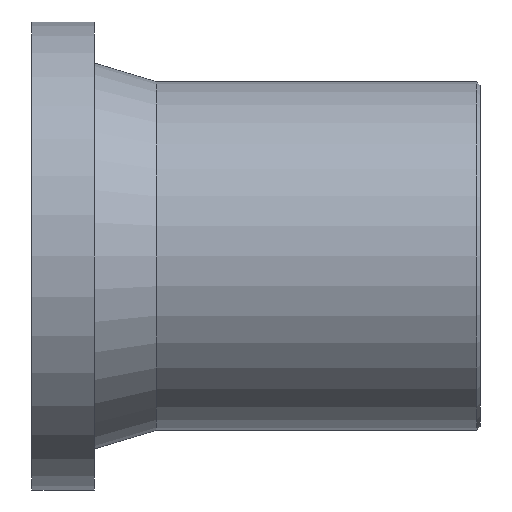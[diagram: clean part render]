
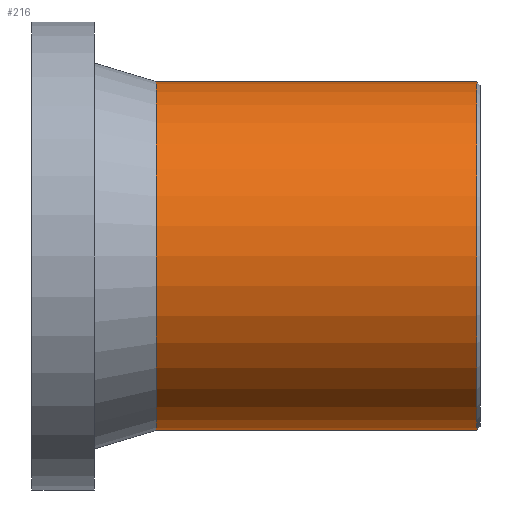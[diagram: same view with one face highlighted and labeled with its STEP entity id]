
A CAD part, front view. The second image highlights one B-rep face of the part: STEP entity #216.
In plain terms, the highlighted cylindrical face has radius 70 mm (diameter 140 mm), a full revolution.
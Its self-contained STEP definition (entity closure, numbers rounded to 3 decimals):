
#24=CYLINDRICAL_SURFACE('',#240,70.);
#34=FACE_BOUND('',#76,.T.);
#54=FACE_OUTER_BOUND('',#75,.T.);
#75=EDGE_LOOP('',(#175));
#76=EDGE_LOOP('',(#176));
#113=CIRCLE('',#238,70.);
#115=CIRCLE('',#241,70.);
#133=VERTEX_POINT('',#361);
#135=VERTEX_POINT('',#366);
#153=EDGE_CURVE('',#133,#133,#113,.T.);
#155=EDGE_CURVE('',#135,#135,#115,.T.);
#175=ORIENTED_EDGE('',*,*,#155,.T.);
#176=ORIENTED_EDGE('',*,*,#153,.F.);
#216=ADVANCED_FACE('',(#54,#34),#24,.T.);
#238=AXIS2_PLACEMENT_3D('',#362,#281,#282);
#240=AXIS2_PLACEMENT_3D('',#365,#285,#286);
#241=AXIS2_PLACEMENT_3D('',#367,#287,#288);
#281=DIRECTION('center_axis',(1.,0.,0.));
#282=DIRECTION('ref_axis',(0.,-1.,0.));
#285=DIRECTION('center_axis',(1.,0.,0.));
#286=DIRECTION('ref_axis',(0.,1.,0.));
#287=DIRECTION('center_axis',(1.,0.,0.));
#288=DIRECTION('ref_axis',(0.,0.,-1.));
#361=CARTESIAN_POINT('',(-1.4,70.,0.));
#362=CARTESIAN_POINT('Origin',(-1.4,0.,
0.));
#365=CARTESIAN_POINT('Origin',(-65.,0.,0.));
#366=CARTESIAN_POINT('',(-130.,70.,0.));
#367=CARTESIAN_POINT('Origin',(-130.,0.,0.));
